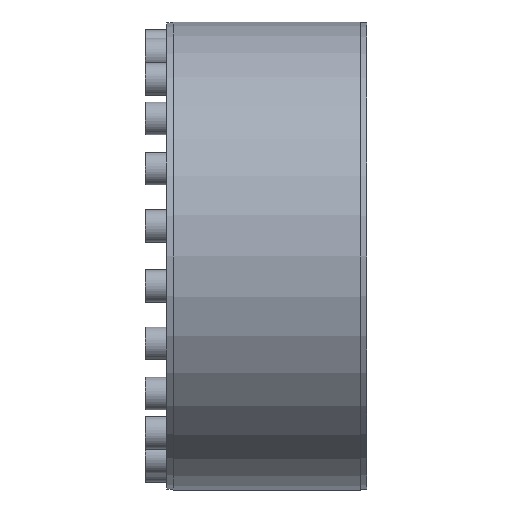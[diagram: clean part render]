
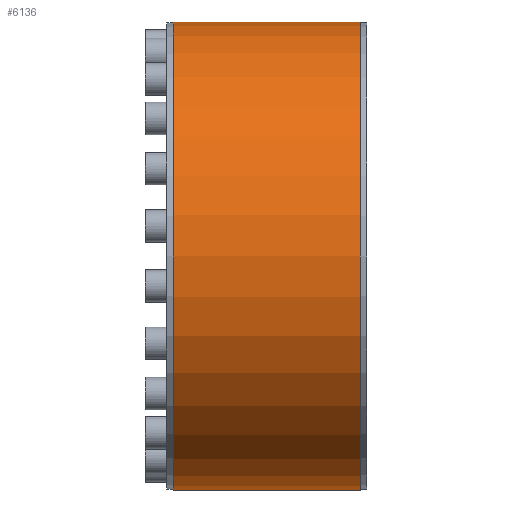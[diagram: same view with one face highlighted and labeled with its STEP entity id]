
A CAD part, left-side view. The second image highlights one B-rep face of the part: STEP entity #6136.
In plain terms, the highlighted cylindrical face has radius 237.5 mm (diameter 475 mm), a partial arc.
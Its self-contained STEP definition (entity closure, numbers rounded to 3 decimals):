
#183 = LINE ( 'NONE', #3688, #6463 ) ;
#438 = CARTESIAN_POINT ( 'NONE',  ( 0., -95., 237.5 ) ) ;
#947 = ORIENTED_EDGE ( 'NONE', *, *, #1370, .F. ) ;
#978 = DIRECTION ( 'NONE',  ( 0., -1., 0. ) ) ;
#1003 = DIRECTION ( 'NONE',  ( 0., 0., -1. ) ) ;
#1130 = EDGE_CURVE ( 'NONE', #2621, #1493, #183, .T. ) ;
#1370 = EDGE_CURVE ( 'NONE', #7330, #4885, #3879, .T. ) ;
#1431 = FACE_OUTER_BOUND ( 'NONE', #5187, .T. ) ;
#1493 = VERTEX_POINT ( 'NONE', #5336 ) ;
#1554 = CARTESIAN_POINT ( 'NONE',  ( 0., -95., 0. ) ) ;
#1702 = DIRECTION ( 'NONE',  ( 0., 0., -1. ) ) ;
#2167 = DIRECTION ( 'NONE',  ( 0., 0., -1. ) ) ;
#2607 = ORIENTED_EDGE ( 'NONE', *, *, #1130, .T. ) ;
#2621 = VERTEX_POINT ( 'NONE', #4203 ) ;
#3364 = CARTESIAN_POINT ( 'NONE',  ( 0., 0., 237.5 ) ) ;
#3395 = DIRECTION ( 'NONE',  ( 0., -1., 0. ) ) ;
#3473 = CARTESIAN_POINT ( 'NONE',  ( 0., 0., 0. ) ) ;
#3688 = CARTESIAN_POINT ( 'NONE',  ( 0., 0., -237.5 ) ) ;
#3689 = EDGE_CURVE ( 'NONE', #7330, #2621, #5765, .T. ) ;
#3695 = AXIS2_PLACEMENT_3D ( 'NONE', #4106, #978, #1003 ) ;
#3879 = LINE ( 'NONE', #3364, #6072 ) ;
#3956 = AXIS2_PLACEMENT_3D ( 'NONE', #3473, #7191, #1702 ) ;
#4106 = CARTESIAN_POINT ( 'NONE',  ( 0., 95., 0. ) ) ;
#4165 = CIRCLE ( 'NONE', #7190, 237.5 ) ;
#4203 = CARTESIAN_POINT ( 'NONE',  ( 0., 95., -237.5 ) ) ;
#4885 = VERTEX_POINT ( 'NONE', #438 ) ;
#4970 = CARTESIAN_POINT ( 'NONE',  ( 0., 95., 237.5 ) ) ;
#5129 = DIRECTION ( 'NONE',  ( 0., -1., 0. ) ) ;
#5146 = ORIENTED_EDGE ( 'NONE', *, *, #3689, .T. ) ;
#5187 = EDGE_LOOP ( 'NONE', ( #947, #5146, #2607, #6735 ) ) ;
#5336 = CARTESIAN_POINT ( 'NONE',  ( 0., -95., -237.5 ) ) ;
#5562 = DIRECTION ( 'NONE',  ( 0., -1., 0. ) ) ;
#5765 = CIRCLE ( 'NONE', #3695, 237.5 ) ;
#5818 = CYLINDRICAL_SURFACE ( 'NONE', #3956, 237.5 ) ;
#6072 = VECTOR ( 'NONE', #5129, 1000. ) ;
#6136 = ADVANCED_FACE ( 'NONE', ( #1431 ), #5818, .T. ) ;
#6463 = VECTOR ( 'NONE', #5562, 1000. ) ;
#6673 = EDGE_CURVE ( 'NONE', #4885, #1493, #4165, .T. ) ;
#6735 = ORIENTED_EDGE ( 'NONE', *, *, #6673, .F. ) ;
#7190 = AXIS2_PLACEMENT_3D ( 'NONE', #1554, #3395, #2167 ) ;
#7191 = DIRECTION ( 'NONE',  ( 0., -1., 0. ) ) ;
#7330 = VERTEX_POINT ( 'NONE', #4970 ) ;
